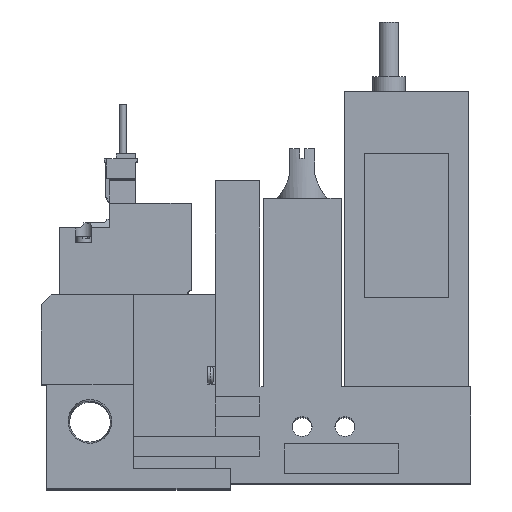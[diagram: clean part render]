
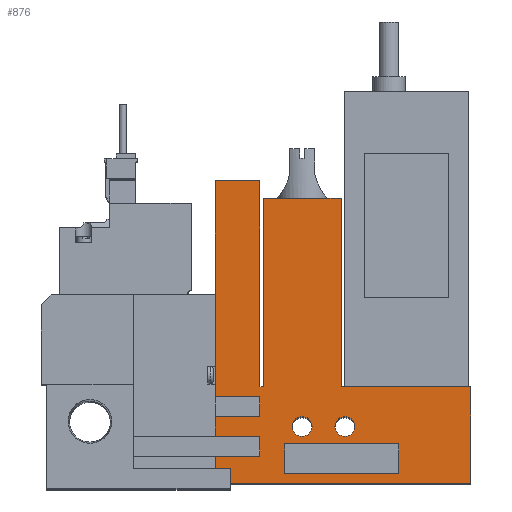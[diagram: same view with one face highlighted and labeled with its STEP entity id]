
A CAD part, top view. The second image highlights one B-rep face of the part: STEP entity #876.
In plain terms, the highlighted planar face has unit normal (0, 0, 1).
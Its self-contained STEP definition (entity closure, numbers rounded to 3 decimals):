
#876=ADVANCED_FACE('',(#1720,#1721,#1722,#1723),#1724,.T.);
#1720=FACE_OUTER_BOUND('',#2901,.T.);
#1721=FACE_BOUND('',#2902,.T.);
#1722=FACE_BOUND('',#2903,.T.);
#1723=FACE_BOUND('',#2904,.T.);
#1724=PLANE('',#2905);
#2901=EDGE_LOOP('',(#5835,#5836,#5837,#5838,#5839,#5840,#5841,#5842,#5843,#5844,#5845,#5846,#5847,#5848,#5849,#5850,#5851,#5852));
#2902=EDGE_LOOP('',(#5853,#5854,#5855,#5856));
#2903=EDGE_LOOP('',(#5857));
#2904=EDGE_LOOP('',(#5858));
#2905=AXIS2_PLACEMENT_3D('',#5859,#5860,#5861);
#5835=ORIENTED_EDGE('',*,*,#8013,.T.);
#5836=ORIENTED_EDGE('',*,*,#8014,.T.);
#5837=ORIENTED_EDGE('',*,*,#7987,.T.);
#5838=ORIENTED_EDGE('',*,*,#7945,.T.);
#5839=ORIENTED_EDGE('',*,*,#8005,.T.);
#5840=ORIENTED_EDGE('',*,*,#7984,.T.);
#5841=ORIENTED_EDGE('',*,*,#7969,.T.);
#5842=ORIENTED_EDGE('',*,*,#8015,.T.);
#5843=ORIENTED_EDGE('',*,*,#7977,.T.);
#5844=ORIENTED_EDGE('',*,*,#7913,.T.);
#5845=ORIENTED_EDGE('',*,*,#7965,.T.);
#5846=ORIENTED_EDGE('',*,*,#7980,.T.);
#5847=ORIENTED_EDGE('',*,*,#8016,.T.);
#5848=ORIENTED_EDGE('',*,*,#8017,.T.);
#5849=ORIENTED_EDGE('',*,*,#7927,.T.);
#5850=ORIENTED_EDGE('',*,*,#7940,.T.);
#5851=ORIENTED_EDGE('',*,*,#8018,.T.);
#5852=ORIENTED_EDGE('',*,*,#8019,.T.);
#5853=ORIENTED_EDGE('',*,*,#8020,.T.);
#5854=ORIENTED_EDGE('',*,*,#8021,.T.);
#5855=ORIENTED_EDGE('',*,*,#7887,.T.);
#5856=ORIENTED_EDGE('',*,*,#7993,.T.);
#5857=ORIENTED_EDGE('',*,*,#7924,.T.);
#5858=ORIENTED_EDGE('',*,*,#7948,.T.);
#5859=CARTESIAN_POINT('',(0.0,0.0,10.0));
#5860=DIRECTION('',(0.0,0.0,1.0));
#5861=DIRECTION('',(1.0,0.0,0.0));
#7887=EDGE_CURVE('',#9497,#9502,#9504,.T.);
#7913=EDGE_CURVE('',#9556,#9554,#9557,.T.);
#7924=EDGE_CURVE('',#9577,#9577,#9578,.T.);
#7927=EDGE_CURVE('',#9584,#9582,#9585,.T.);
#7940=EDGE_CURVE('',#9582,#9604,#9606,.T.);
#7945=EDGE_CURVE('',#9607,#9613,#9615,.T.);
#7948=EDGE_CURVE('',#9620,#9620,#9621,.T.);
#7965=EDGE_CURVE('',#9554,#9648,#9650,.T.);
#7969=EDGE_CURVE('',#9651,#9656,#9658,.T.);
#7977=EDGE_CURVE('',#9667,#9556,#9670,.T.);
#7980=EDGE_CURVE('',#9648,#9673,#9675,.T.);
#7984=EDGE_CURVE('',#9681,#9651,#9682,.T.);
#7987=EDGE_CURVE('',#9684,#9607,#9686,.T.);
#7993=EDGE_CURVE('',#9502,#9694,#9696,.T.);
#8005=EDGE_CURVE('',#9613,#9681,#9715,.T.);
#8013=EDGE_CURVE('',#9726,#9727,#9728,.T.);
#8014=EDGE_CURVE('',#9727,#9684,#9729,.T.);
#8015=EDGE_CURVE('',#9656,#9667,#9730,.T.);
#8016=EDGE_CURVE('',#9673,#9731,#9732,.T.);
#8017=EDGE_CURVE('',#9731,#9584,#9733,.T.);
#8018=EDGE_CURVE('',#9604,#9734,#9735,.T.);
#8019=EDGE_CURVE('',#9734,#9726,#9736,.T.);
#8020=EDGE_CURVE('',#9694,#9737,#9738,.T.);
#8021=EDGE_CURVE('',#9737,#9497,#9739,.T.);
#9497=VERTEX_POINT('',#12110);
#9502=VERTEX_POINT('',#12117);
#9504=LINE('',#12120,#12121);
#9554=VERTEX_POINT('',#12195);
#9556=VERTEX_POINT('',#12198);
#9557=LINE('',#12199,#12200);
#9577=VERTEX_POINT('',#12229);
#9578=CIRCLE('',#12230,2.0);
#9582=VERTEX_POINT('',#12235);
#9584=VERTEX_POINT('',#12238);
#9585=LINE('',#12239,#12240);
#9604=VERTEX_POINT('',#12266);
#9606=LINE('',#12269,#12270);
#9607=VERTEX_POINT('',#12271);
#9613=VERTEX_POINT('',#12280);
#9615=LINE('',#12283,#12284);
#9620=VERTEX_POINT('',#12289);
#9621=CIRCLE('',#12290,2.0);
#9648=VERTEX_POINT('',#12330);
#9650=LINE('',#12333,#12334);
#9651=VERTEX_POINT('',#12335);
#9656=VERTEX_POINT('',#12342);
#9658=LINE('',#12345,#12346);
#9667=VERTEX_POINT('',#12360);
#9670=LINE('',#12365,#12366);
#9673=VERTEX_POINT('',#12370);
#9675=LINE('',#12373,#12374);
#9681=VERTEX_POINT('',#12382);
#9682=LINE('',#12383,#12384);
#9684=VERTEX_POINT('',#12387);
#9686=LINE('',#12390,#12391);
#9694=VERTEX_POINT('',#12402);
#9696=LINE('',#12405,#12406);
#9715=LINE('',#12436,#12437);
#9726=VERTEX_POINT('',#12455);
#9727=VERTEX_POINT('',#12456);
#9728=LINE('',#12457,#12458);
#9729=LINE('',#12459,#12460);
#9730=LINE('',#12461,#12462);
#9731=VERTEX_POINT('',#12463);
#9732=LINE('',#12464,#12465);
#9733=LINE('',#12466,#12467);
#9734=VERTEX_POINT('',#12468);
#9735=LINE('',#12469,#12470);
#9736=LINE('',#12471,#12472);
#9737=VERTEX_POINT('',#12473);
#9738=LINE('',#12474,#12475);
#9739=LINE('',#12476,#12477);
#12110=CARTESIAN_POINT('',(72.1,8.0,10.0));
#12117=CARTESIAN_POINT('',(72.1,2.0,10.0));
#12120=CARTESIAN_POINT('',(72.1,0.0,10.0));
#12121=VECTOR('',#14430,1.0);
#12195=CARTESIAN_POINT('',(86.6,0.0,10.0));
#12198=CARTESIAN_POINT('',(35.1,0.0,10.0));
#12199=CARTESIAN_POINT('',(18.6,0.0,10.0));
#12200=VECTOR('',#14456,1.0);
#12229=CARTESIAN_POINT('',(54.6,11.5,10.0));
#12230=AXIS2_PLACEMENT_3D('',#14469,#14470,#14471);
#12235=CARTESIAN_POINT('',(44.75,19.5,10.0));
#12238=CARTESIAN_POINT('',(44.75,57.5,10.0));
#12239=CARTESIAN_POINT('',(44.75,57.5,10.0));
#12240=VECTOR('',#14474,1.0);
#12266=CARTESIAN_POINT('',(44.1,19.5,10.0));
#12269=CARTESIAN_POINT('',(44.75,19.5,10.0));
#12270=VECTOR('',#14495,1.0);
#12271=CARTESIAN_POINT('',(44.1,13.5,10.0));
#12280=CARTESIAN_POINT('',(35.1,13.5,10.0));
#12283=CARTESIAN_POINT('',(0.0,13.5,10.0));
#12284=VECTOR('',#14500,1.0);
#12289=CARTESIAN_POINT('',(63.2,11.5,10.0));
#12290=AXIS2_PLACEMENT_3D('',#14507,#14508,#14509);
#12330=CARTESIAN_POINT('',(86.6,19.5,10.0));
#12333=CARTESIAN_POINT('',(86.6,0.0,10.0));
#12334=VECTOR('',#14530,1.0);
#12335=CARTESIAN_POINT('',(44.1,9.5,10.0));
#12342=CARTESIAN_POINT('',(44.1,5.5,10.0));
#12345=CARTESIAN_POINT('',(44.1,0.0,10.0));
#12346=VECTOR('',#14534,1.0);
#12360=CARTESIAN_POINT('',(35.1,5.5,10.0));
#12365=CARTESIAN_POINT('',(35.1,0.0,10.0));
#12366=VECTOR('',#14542,1.0);
#12370=CARTESIAN_POINT('',(60.45,19.5,10.0));
#12373=CARTESIAN_POINT('',(86.6,19.5,10.0));
#12374=VECTOR('',#14545,1.0);
#12382=CARTESIAN_POINT('',(35.1,9.5,10.0));
#12383=CARTESIAN_POINT('',(0.0,9.5,10.0));
#12384=VECTOR('',#14551,1.0);
#12387=CARTESIAN_POINT('',(44.1,17.5,10.0));
#12390=CARTESIAN_POINT('',(44.1,0.0,10.0));
#12391=VECTOR('',#14554,1.0);
#12402=CARTESIAN_POINT('',(49.1,2.0,10.0));
#12405=CARTESIAN_POINT('',(0.0,2.0,10.0));
#12406=VECTOR('',#14562,1.0);
#12436=CARTESIAN_POINT('',(35.1,0.0,10.0));
#12437=VECTOR('',#14574,1.0);
#12455=CARTESIAN_POINT('',(35.1,61.0,10.0));
#12456=CARTESIAN_POINT('',(35.1,17.5,10.0));
#12457=CARTESIAN_POINT('',(35.1,61.0,10.0));
#12458=VECTOR('',#14582,1.0);
#12459=CARTESIAN_POINT('',(0.0,17.5,10.0));
#12460=VECTOR('',#14583,1.0);
#12461=CARTESIAN_POINT('',(0.0,5.5,10.0));
#12462=VECTOR('',#14584,1.0);
#12463=CARTESIAN_POINT('',(60.45,57.5,10.0));
#12464=CARTESIAN_POINT('',(60.45,19.5,10.0));
#12465=VECTOR('',#14585,1.0);
#12466=CARTESIAN_POINT('',(60.45,57.5,10.0));
#12467=VECTOR('',#14586,1.0);
#12468=CARTESIAN_POINT('',(44.1,61.0,10.0));
#12469=CARTESIAN_POINT('',(44.1,19.5,10.0));
#12470=VECTOR('',#14587,1.0);
#12471=CARTESIAN_POINT('',(44.1,61.0,10.0));
#12472=VECTOR('',#14588,1.0);
#12473=CARTESIAN_POINT('',(49.1,8.0,10.0));
#12474=CARTESIAN_POINT('',(49.1,0.0,10.0));
#12475=VECTOR('',#14589,1.0);
#12476=CARTESIAN_POINT('',(0.0,8.0,10.0));
#12477=VECTOR('',#14590,1.0);
#14430=DIRECTION('',(0.0,-1.0,0.0));
#14456=DIRECTION('',(1.0,0.0,0.0));
#14469=CARTESIAN_POINT('',(52.6,11.5,10.0));
#14470=DIRECTION('',(0.0,0.0,-1.0));
#14471=DIRECTION('',(1.0,0.0,0.0));
#14474=DIRECTION('',(0.0,-1.0,0.0));
#14495=DIRECTION('',(-1.0,0.0,0.0));
#14500=DIRECTION('',(-1.0,0.0,0.0));
#14507=CARTESIAN_POINT('',(61.2,11.5,10.0));
#14508=DIRECTION('',(0.0,0.0,-1.0));
#14509=DIRECTION('',(1.0,0.0,0.0));
#14530=DIRECTION('',(0.0,1.0,0.0));
#14534=DIRECTION('',(0.0,-1.0,0.0));
#14542=DIRECTION('',(0.0,-1.0,0.0));
#14545=DIRECTION('',(-1.0,0.0,0.0));
#14551=DIRECTION('',(1.0,0.0,0.0));
#14554=DIRECTION('',(0.0,-1.0,0.0));
#14562=DIRECTION('',(-1.0,0.0,0.0));
#14574=DIRECTION('',(0.0,-1.0,0.0));
#14582=DIRECTION('',(0.0,-1.0,0.0));
#14583=DIRECTION('',(1.0,0.0,0.0));
#14584=DIRECTION('',(-1.0,0.0,0.0));
#14585=DIRECTION('',(0.0,1.0,0.0));
#14586=DIRECTION('',(-1.0,0.0,0.0));
#14587=DIRECTION('',(0.0,1.0,0.0));
#14588=DIRECTION('',(-1.0,0.0,0.0));
#14589=DIRECTION('',(0.0,1.0,0.0));
#14590=DIRECTION('',(1.0,0.0,0.0));
